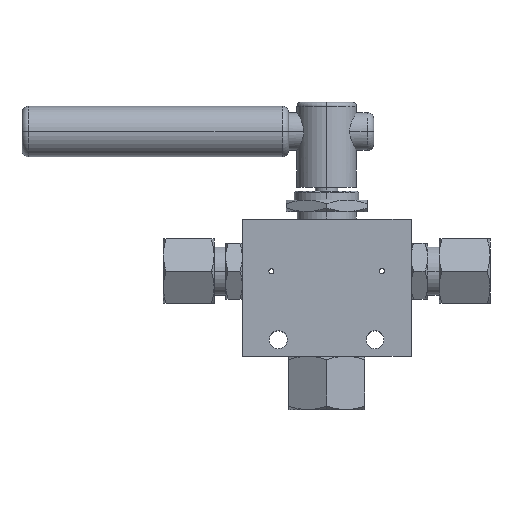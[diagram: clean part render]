
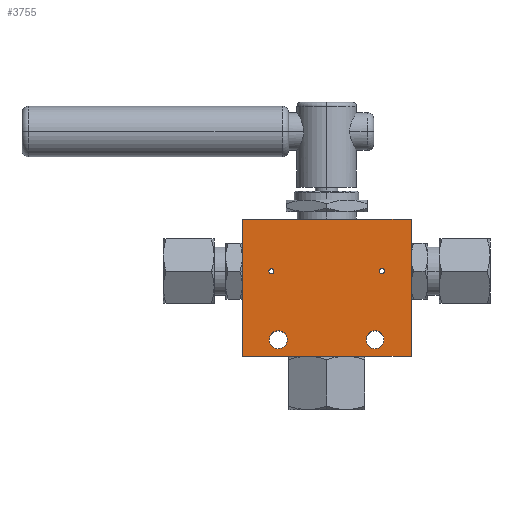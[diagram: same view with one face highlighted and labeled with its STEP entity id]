
A CAD part, top view. The second image highlights one B-rep face of the part: STEP entity #3755.
In plain terms, the highlighted planar face has unit normal (0, 0, 1).
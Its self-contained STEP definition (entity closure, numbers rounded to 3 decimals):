
#28 = AXIS2_PLACEMENT_3D ( 'NONE', #6566, #3480, #1811 ) ;
#136 = DIRECTION ( 'NONE',  ( 1., 0., 0. ) ) ;
#143 = EDGE_CURVE ( 'NONE', #2995, #961, #2992, .T. ) ;
#185 = ORIENTED_EDGE ( 'NONE', *, *, #1191, .F. ) ;
#243 = DIRECTION ( 'NONE',  ( 0., 0., 1. ) ) ;
#399 = EDGE_CURVE ( 'NONE', #1463, #6137, #2348, .T. ) ;
#535 = DIRECTION ( 'NONE',  ( 0., 0., 1. ) ) ;
#537 = DIRECTION ( 'NONE',  ( 0., 0., -1. ) ) ;
#609 = ORIENTED_EDGE ( 'NONE', *, *, #143, .T. ) ;
#617 = CARTESIAN_POINT ( 'NONE',  ( -15.55, -20.5, 19. ) ) ;
#619 = CARTESIAN_POINT ( 'NONE',  ( 20.75, 6.5, 19. ) ) ;
#641 = DIRECTION ( 'NONE',  ( -1., 0., 0. ) ) ;
#656 = VERTEX_POINT ( 'NONE', #4875 ) ;
#667 = VECTOR ( 'NONE', #1081, 1000. ) ;
#736 = ORIENTED_EDGE ( 'NONE', *, *, #3568, .F. ) ;
#813 = VERTEX_POINT ( 'NONE', #4011 ) ;
#961 = VERTEX_POINT ( 'NONE', #1042 ) ;
#1005 = CIRCLE ( 'NONE', #3321, 3.5 ) ;
#1042 = CARTESIAN_POINT ( 'NONE',  ( -33.25, -27., 19. ) ) ;
#1058 = FACE_OUTER_BOUND ( 'NONE', #5697, .T. ) ;
#1081 = DIRECTION ( 'NONE',  ( 0., 1., 0. ) ) ;
#1191 = EDGE_CURVE ( 'NONE', #5980, #6571, #1505, .T. ) ;
#1229 = VERTEX_POINT ( 'NONE', #1599 ) ;
#1235 = LINE ( 'NONE', #5960, #2415 ) ;
#1411 = CARTESIAN_POINT ( 'NONE',  ( -22.55, -20.5, 19. ) ) ;
#1449 = VECTOR ( 'NONE', #4062, 1000. ) ;
#1463 = VERTEX_POINT ( 'NONE', #3979 ) ;
#1505 = CIRCLE ( 'NONE', #6478, 3.5 ) ;
#1518 = EDGE_CURVE ( 'NONE', #4879, #5009, #3365, .T. ) ;
#1535 = AXIS2_PLACEMENT_3D ( 'NONE', #3156, #537, #641 ) ;
#1548 = AXIS2_PLACEMENT_3D ( 'NONE', #6313, #5757, #2011 ) ;
#1582 = CARTESIAN_POINT ( 'NONE',  ( -21.75, 6.5, 19. ) ) ;
#1599 = CARTESIAN_POINT ( 'NONE',  ( -20.75, 6.5, 19. ) ) ;
#1668 = FACE_BOUND ( 'NONE', #3257, .T. ) ;
#1771 = CIRCLE ( 'NONE', #28, 1. ) ;
#1777 = CARTESIAN_POINT ( 'NONE',  ( 21.75, 6.5, 19. ) ) ;
#1782 = CIRCLE ( 'NONE', #2544, 1. ) ;
#1811 = DIRECTION ( 'NONE',  ( 1., 0., 0. ) ) ;
#1884 = VECTOR ( 'NONE', #3960, 1000. ) ;
#2011 = DIRECTION ( 'NONE',  ( 1., 0., 0. ) ) ;
#2072 = DIRECTION ( 'NONE',  ( 1., 0., 0. ) ) ;
#2315 = CIRCLE ( 'NONE', #1548, 3.5 ) ;
#2348 = CIRCLE ( 'NONE', #4234, 1. ) ;
#2415 = VECTOR ( 'NONE', #5442, 1000. ) ;
#2544 = AXIS2_PLACEMENT_3D ( 'NONE', #1582, #4070, #5774 ) ;
#2553 = EDGE_CURVE ( 'NONE', #6137, #1463, #3859, .T. ) ;
#2557 = ORIENTED_EDGE ( 'NONE', *, *, #2553, .F. ) ;
#2592 = CARTESIAN_POINT ( 'NONE',  ( 21.75, 6.5, 19. ) ) ;
#2619 = CARTESIAN_POINT ( 'NONE',  ( 33.25, -27., 19. ) ) ;
#2663 = CARTESIAN_POINT ( 'NONE',  ( 33.25, 27., 19. ) ) ;
#2970 = EDGE_CURVE ( 'NONE', #813, #4124, #3773, .T. ) ;
#2992 = LINE ( 'NONE', #6180, #1884 ) ;
#2995 = VERTEX_POINT ( 'NONE', #4225 ) ;
#3156 = CARTESIAN_POINT ( 'NONE',  ( 0., 0., 19. ) ) ;
#3194 = AXIS2_PLACEMENT_3D ( 'NONE', #2592, #5193, #6689 ) ;
#3256 = FACE_BOUND ( 'NONE', #4364, .T. ) ;
#3257 = EDGE_LOOP ( 'NONE', ( #3708, #4219 ) ) ;
#3296 = CARTESIAN_POINT ( 'NONE',  ( 22.55, -20.5, 19. ) ) ;
#3321 = AXIS2_PLACEMENT_3D ( 'NONE', #4787, #5833, #136 ) ;
#3365 = CIRCLE ( 'NONE', #4354, 3.5 ) ;
#3391 = ORIENTED_EDGE ( 'NONE', *, *, #2970, .T. ) ;
#3451 = EDGE_LOOP ( 'NONE', ( #4825, #5619 ) ) ;
#3480 = DIRECTION ( 'NONE',  ( 0., 0., 1. ) ) ;
#3501 = ORIENTED_EDGE ( 'NONE', *, *, #5222, .T. ) ;
#3568 = EDGE_CURVE ( 'NONE', #6571, #5980, #2315, .T. ) ;
#3708 = ORIENTED_EDGE ( 'NONE', *, *, #6030, .F. ) ;
#3755 = ADVANCED_FACE ( 'NONE', ( #1058, #1668, #3783, #5902, #3256 ), #5366, .F. ) ;
#3767 = EDGE_CURVE ( 'NONE', #4124, #2995, #1235, .T. ) ;
#3773 = LINE ( 'NONE', #2619, #667 ) ;
#3783 = FACE_BOUND ( 'NONE', #3954, .T. ) ;
#3859 = CIRCLE ( 'NONE', #3194, 1. ) ;
#3954 = EDGE_LOOP ( 'NONE', ( #2557, #5319 ) ) ;
#3960 = DIRECTION ( 'NONE',  ( 0., -1., 0. ) ) ;
#3979 = CARTESIAN_POINT ( 'NONE',  ( 22.75, 6.5, 19. ) ) ;
#4011 = CARTESIAN_POINT ( 'NONE',  ( 33.25, -27., 19. ) ) ;
#4020 = DIRECTION ( 'NONE',  ( 0., 0., 1. ) ) ;
#4062 = DIRECTION ( 'NONE',  ( 1., 0., 0. ) ) ;
#4070 = DIRECTION ( 'NONE',  ( 0., 0., 1. ) ) ;
#4124 = VERTEX_POINT ( 'NONE', #2663 ) ;
#4219 = ORIENTED_EDGE ( 'NONE', *, *, #5147, .F. ) ;
#4225 = CARTESIAN_POINT ( 'NONE',  ( -33.25, 27., 19. ) ) ;
#4234 = AXIS2_PLACEMENT_3D ( 'NONE', #1777, #243, #5974 ) ;
#4354 = AXIS2_PLACEMENT_3D ( 'NONE', #6615, #4020, #5571 ) ;
#4364 = EDGE_LOOP ( 'NONE', ( #185, #736 ) ) ;
#4787 = CARTESIAN_POINT ( 'NONE',  ( -19.05, -20.5, 19. ) ) ;
#4825 = ORIENTED_EDGE ( 'NONE', *, *, #1518, .F. ) ;
#4875 = CARTESIAN_POINT ( 'NONE',  ( -22.75, 6.5, 19. ) ) ;
#4879 = VERTEX_POINT ( 'NONE', #1411 ) ;
#5009 = VERTEX_POINT ( 'NONE', #617 ) ;
#5085 = ORIENTED_EDGE ( 'NONE', *, *, #3767, .T. ) ;
#5147 = EDGE_CURVE ( 'NONE', #1229, #656, #1771, .T. ) ;
#5193 = DIRECTION ( 'NONE',  ( 0., 0., 1. ) ) ;
#5222 = EDGE_CURVE ( 'NONE', #961, #813, #5688, .T. ) ;
#5319 = ORIENTED_EDGE ( 'NONE', *, *, #399, .F. ) ;
#5361 = EDGE_CURVE ( 'NONE', #5009, #4879, #1005, .T. ) ;
#5366 = PLANE ( 'NONE',  #1535 ) ;
#5442 = DIRECTION ( 'NONE',  ( -1., 0., 0. ) ) ;
#5571 = DIRECTION ( 'NONE',  ( 1., 0., 0. ) ) ;
#5619 = ORIENTED_EDGE ( 'NONE', *, *, #5361, .F. ) ;
#5688 = LINE ( 'NONE', #5720, #1449 ) ;
#5697 = EDGE_LOOP ( 'NONE', ( #3391, #5085, #609, #3501 ) ) ;
#5720 = CARTESIAN_POINT ( 'NONE',  ( -33.25, -27., 19. ) ) ;
#5757 = DIRECTION ( 'NONE',  ( 0., 0., 1. ) ) ;
#5774 = DIRECTION ( 'NONE',  ( 1., 0., 0. ) ) ;
#5833 = DIRECTION ( 'NONE',  ( 0., 0., 1. ) ) ;
#5902 = FACE_BOUND ( 'NONE', #3451, .T. ) ;
#5960 = CARTESIAN_POINT ( 'NONE',  ( -33.25, 27., 19. ) ) ;
#5974 = DIRECTION ( 'NONE',  ( 1., 0., 0. ) ) ;
#5980 = VERTEX_POINT ( 'NONE', #6808 ) ;
#6030 = EDGE_CURVE ( 'NONE', #656, #1229, #1782, .T. ) ;
#6137 = VERTEX_POINT ( 'NONE', #619 ) ;
#6180 = CARTESIAN_POINT ( 'NONE',  ( -33.25, -27., 19. ) ) ;
#6313 = CARTESIAN_POINT ( 'NONE',  ( 19.05, -20.5, 19. ) ) ;
#6346 = CARTESIAN_POINT ( 'NONE',  ( 19.05, -20.5, 19. ) ) ;
#6478 = AXIS2_PLACEMENT_3D ( 'NONE', #6346, #535, #2072 ) ;
#6566 = CARTESIAN_POINT ( 'NONE',  ( -21.75, 6.5, 19. ) ) ;
#6571 = VERTEX_POINT ( 'NONE', #3296 ) ;
#6615 = CARTESIAN_POINT ( 'NONE',  ( -19.05, -20.5, 19. ) ) ;
#6689 = DIRECTION ( 'NONE',  ( 1., 0., 0. ) ) ;
#6808 = CARTESIAN_POINT ( 'NONE',  ( 15.55, -20.5, 19. ) ) ;
